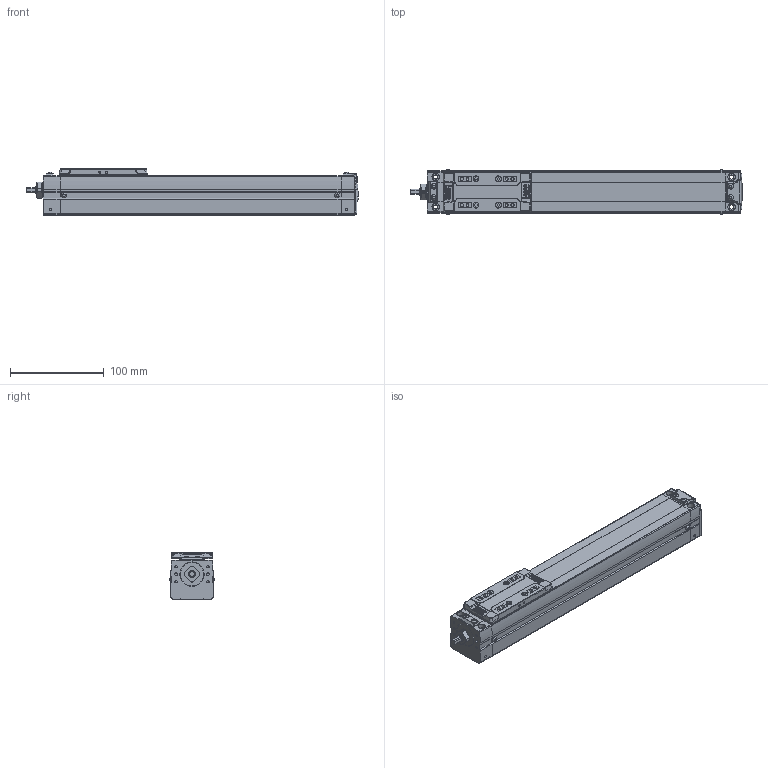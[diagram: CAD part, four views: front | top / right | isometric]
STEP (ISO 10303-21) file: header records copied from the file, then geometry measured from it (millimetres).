
FILE_DESCRIPTION(('STEP AP214'),'1');
FILE_NAME('Z:/Web/3D/SAN45/STP/SAN45ㅁㅁ-200.stp','2012-06-15T04:29:22',(' '),(' '),'Spatial InterOp 3D',' ',' ');
FILE_SCHEMA(('automotive_design'));
Length unit declared in the file: metre
Products named in the file (27): SAN45__-200; BODY-SAN45; REAR-SAN45; RRCV-SAN45; BHCS M3 x 6L; BHCS M3 X 6L; FRONT-SAN45; SHAFT; RN8 x 0.75; SSFX-SAN45; SLIDE-SAN45; SLCV-IM45; FHCS M3 x 6L
Assembly tree (26 placements, depth 3):
  SAN45__-200
    BODY-SAN45
    REAR-SAN45
      REAR-SAN45
      RRCV-SAN45
      BHCS M3 x 6L
      BHCS M3 X 6L
      BHCS M3 x 6L
      BHCS M3 x 6L
      BHCS M3 x 6L
      BHCS M3 x 6L
    FRONT-SAN45
      FRONT-SAN45
      SHAFT
      RN8 x 0.75
      SSFX-SAN45
      BHCS M3 x 6L
      BHCS M3 x 6L
      BHCS M3 x 6L
      BHCS M3 x 6L
    SLIDE-SAN45
      SLIDE-SAN45
      SLCV-IM45
      FHCS M3 x 6L
      FHCS M3 x 6L
      FHCS M3 x 6L
      FHCS M3 x 6L
Bounding box: 354.65 x 47.13 x 50 mm (x, y, z)
Volume: 624514 mm3; surface area: 107262.3 mm2
Topology: 23 solids, 23 shells, 1361 faces, 3498 edges, 2273 vertices
Faces by surface type: plane 838, cylinder 388, cone 63, bspline 38, sphere 22, torus 9, extrusion 3
Full cylindrical faces by diameter (mm): 0.376 x2, 0.47 x1, 1.137 x2, 1.421 x1, 1.665 x4, 2.081 x2, 2.2 x4, 2.5 x13, 3 x6, 3.193 x4, 3.3 x4, 3.4 x4, 3.5 x6, 3.991 x2, 4.2 x7, 4.5 x4, 5 x3, 6 x6, 7 x1, 8 x8, 13 x1, 15 x1, 19 x1
Entity records: 55287 total; most frequent: CARTESIAN_POINT 10936, DIRECTION 6861, ORIENTED_EDGE 6574, EDGE_CURVE 3287, AXIS2_PLACEMENT_3D 2299, VECTOR 2263, LINE 2260, VERTEX_POINT 2230
